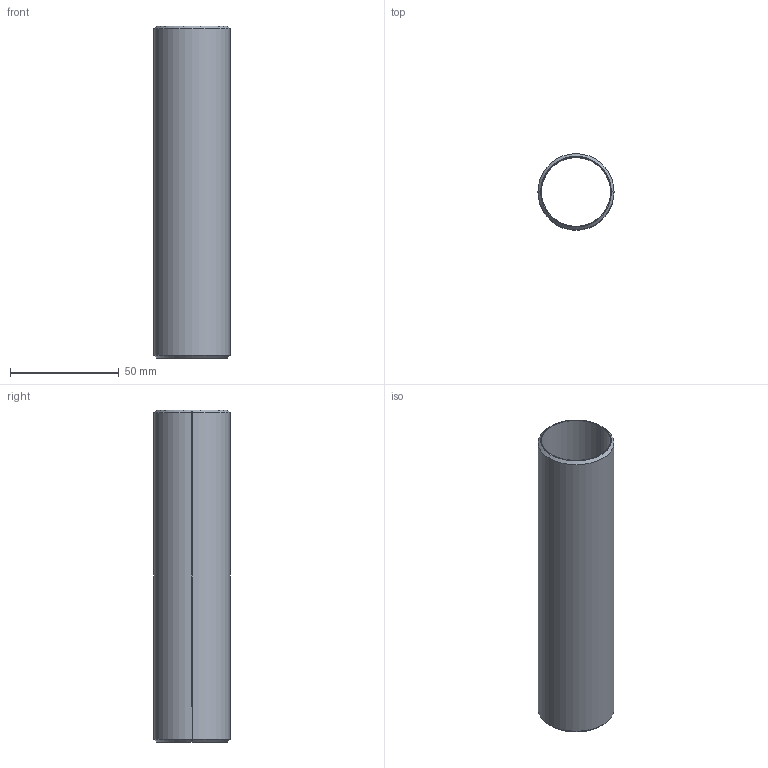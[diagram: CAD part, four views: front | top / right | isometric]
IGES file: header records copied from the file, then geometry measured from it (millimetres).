
Start section: SolidWorks IGES file using analytic representation for surfaces
Global section: file name: C:\Users\Shane\Desktop\Body.IGS; native system: SolidWorks 2011; preprocessor: SolidWorks 2011; author: Shane; date: 120428.103737; units: inch
Bounding box: 34.92 x 34.92 x 152.4 mm (x, y, z)
Surface area: 32087.6 mm2 (no closed solid volume)
Topology: 0 solids, 0 shells, 10 faces, 288 edges, 288 vertices
Faces by surface type: revolution 8, bspline 2
